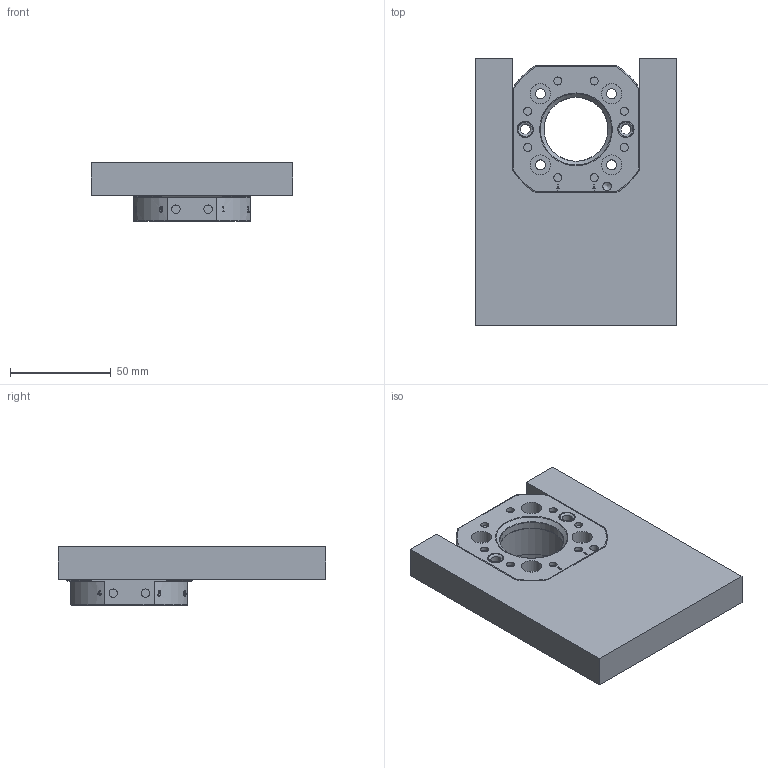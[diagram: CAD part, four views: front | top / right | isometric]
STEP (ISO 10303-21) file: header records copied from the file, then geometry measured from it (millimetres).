
FILE_DESCRIPTION(/* description */ (''),/* implementation_level */ '2;1');
FILE_NAME(/* name */ 'T:\CAD\Neuentwicklungen\G-AC063 Auto Connector\G-AC063-2UEP_LT.stp',/* time_stamp */ '2021-07-07T14:42:37+02:00',/* author */ ('vbednarz'),/* organization */ (''),/* preprocessor_version */ 'ST-DEVELOPER v17',/* originating_system */ 'Autodesk Inventor 2018',/* authorisation */ '');
FILE_SCHEMA (('CONFIG_CONTROL_DESIGN'));
Length unit declared in the file: millimetre
Products named in the file (1): 3D G-AC063-2UEP_LT
Bounding box: 100.12 x 133 x 29.1 mm (x, y, z)
Volume: 203292.1 mm3; surface area: 47651.1 mm2
Topology: 2 solids, 14 shells, 354 faces, 923 edges, 628 vertices
Faces by surface type: plane 140, cylinder 96, bspline 65, cone 28, torus 21, sphere 4
Full cylindrical faces by diameter (mm): 2.02 x4, 2.5 x2, 4 x8, 4.18 x1, 4.2 x16, 5 x6, 5.8 x2, 6.01 x4, 8 x2, 8.02 x2, 10 x4, 31.7 x1, 40 x1, 41 x1
Entity records: 13709 total; most frequent: CARTESIAN_POINT 4868, ORIENTED_EDGE 1804, DIRECTION 1632, EDGE_CURVE 902, VERTEX_POINT 628, AXIS2_PLACEMENT_3D 614, EDGE_LOOP 420, LINE 404
